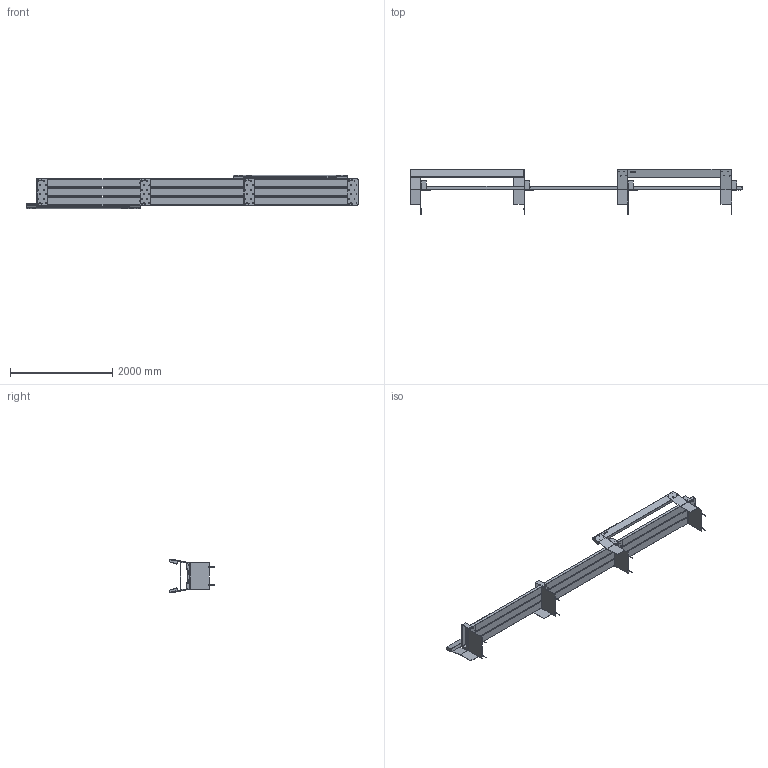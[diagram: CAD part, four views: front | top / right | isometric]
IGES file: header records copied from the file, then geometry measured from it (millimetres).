
Start section: SolidWorks IGES file using analytic representation for surfaces
Global section: file name: C:\SANTACOLE_PDM\Proyectos Catálogo\PROD-P09-007 -- BANCAL\6_Técnico comercial\3D WEB\Banco Bancal 3 tramos 2 respaldos invertidos.IGS; native system: SolidWorks 2013; preprocessor: SolidWorks 2013; author: jordi.munoz; date: 150325.183421; units: millimetre
Bounding box: 6507 x 896.97 x 661.54 mm (x, y, z)
Volume: 218998126 mm3; surface area: 14629210.9 mm2
Topology: 178 solids, 178 shells, 5448 faces, 13408 edges, 8572 vertices
Faces by surface type: plane 3288, revolution 1616, bspline 544
